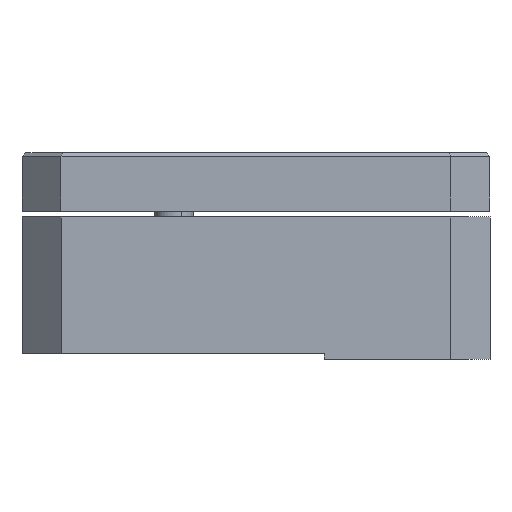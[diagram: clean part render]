
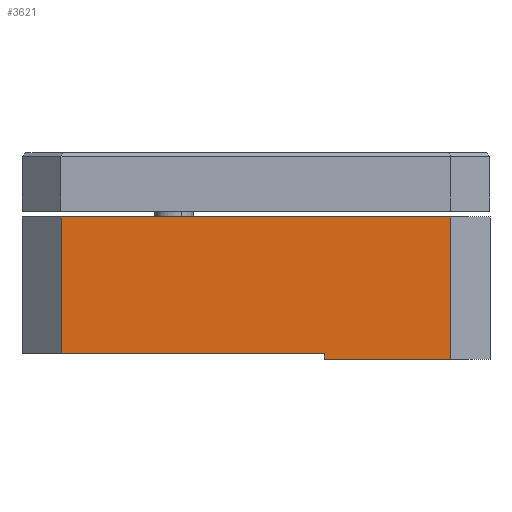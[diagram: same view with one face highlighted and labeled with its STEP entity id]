
A CAD part, left-side view. The second image highlights one B-rep face of the part: STEP entity #3621.
In plain terms, the highlighted planar face has unit normal (-1, 0, 0).
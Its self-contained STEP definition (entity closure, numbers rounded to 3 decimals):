
#263 = VERTEX_POINT ( 'NONE', #1630 ) ;
#318 = EDGE_CURVE ( 'NONE', #263, #2009, #1905, .T. ) ;
#543 = CARTESIAN_POINT ( 'NONE',  ( -17.951, -11.6, 20.2 ) ) ;
#552 = DIRECTION ( 'NONE',  ( 0., 1., 0. ) ) ;
#623 = CARTESIAN_POINT ( 'NONE',  ( -17.951, 12.4, 27.5 ) ) ;
#633 = ORIENTED_EDGE ( 'NONE', *, *, #3419, .T. ) ;
#640 = EDGE_CURVE ( 'NONE', #1359, #2999, #2734, .T. ) ;
#679 = VECTOR ( 'NONE', #2031, 1000. ) ;
#713 = CARTESIAN_POINT ( 'NONE',  ( -17.951, -3.1, 20.5 ) ) ;
#807 = LINE ( 'NONE', #543, #2436 ) ;
#810 = CARTESIAN_POINT ( 'NONE',  ( -17.951, 10.4, 27.5 ) ) ;
#880 = DIRECTION ( 'NONE',  ( 1., 0., 0. ) ) ;
#938 = VECTOR ( 'NONE', #3028, 1000. ) ;
#968 = CARTESIAN_POINT ( 'NONE',  ( -17.951, 10.4, 27.5 ) ) ;
#982 = VECTOR ( 'NONE', #3477, 1000. ) ;
#1069 = VECTOR ( 'NONE', #2731, 1000. ) ;
#1359 = VERTEX_POINT ( 'NONE', #810 ) ;
#1361 = CARTESIAN_POINT ( 'NONE',  ( -17.951, -3.1, 20.2 ) ) ;
#1476 = CARTESIAN_POINT ( 'NONE',  ( -17.951, 10.4, 20.5 ) ) ;
#1562 = EDGE_LOOP ( 'NONE', ( #2550, #633, #1735, #2594, #2007, #1789 ) ) ;
#1630 = CARTESIAN_POINT ( 'NONE',  ( -17.951, -3.1, 20.2 ) ) ;
#1644 = VERTEX_POINT ( 'NONE', #1476 ) ;
#1653 = DIRECTION ( 'NONE',  ( 0., 1., 0. ) ) ;
#1735 = ORIENTED_EDGE ( 'NONE', *, *, #2833, .T. ) ;
#1760 = LINE ( 'NONE', #2250, #938 ) ;
#1789 = ORIENTED_EDGE ( 'NONE', *, *, #2592, .T. ) ;
#1818 = AXIS2_PLACEMENT_3D ( 'NONE', #1953, #880, #552 ) ;
#1905 = LINE ( 'NONE', #1361, #1069 ) ;
#1953 = CARTESIAN_POINT ( 'NONE',  ( -17.951, 12.4, 27.5 ) ) ;
#2007 = ORIENTED_EDGE ( 'NONE', *, *, #2741, .F. ) ;
#2009 = VERTEX_POINT ( 'NONE', #713 ) ;
#2031 = DIRECTION ( 'NONE',  ( 0., -1., 0. ) ) ;
#2098 = CARTESIAN_POINT ( 'NONE',  ( -17.951, -9.6, 20.2 ) ) ;
#2250 = CARTESIAN_POINT ( 'NONE',  ( -17.951, 12.4, 20.5 ) ) ;
#2296 = FACE_OUTER_BOUND ( 'NONE', #1562, .T. ) ;
#2436 = VECTOR ( 'NONE', #1653, 1000. ) ;
#2550 = ORIENTED_EDGE ( 'NONE', *, *, #640, .F. ) ;
#2592 = EDGE_CURVE ( 'NONE', #3445, #2999, #3391, .T. ) ;
#2594 = ORIENTED_EDGE ( 'NONE', *, *, #318, .F. ) ;
#2681 = DIRECTION ( 'NONE',  ( 0., 0., -1. ) ) ;
#2731 = DIRECTION ( 'NONE',  ( 0., 0., 1. ) ) ;
#2734 = LINE ( 'NONE', #623, #679 ) ;
#2741 = EDGE_CURVE ( 'NONE', #3445, #263, #807, .T. ) ;
#2767 = VECTOR ( 'NONE', #2681, 1000. ) ;
#2833 = EDGE_CURVE ( 'NONE', #1644, #2009, #1760, .T. ) ;
#2999 = VERTEX_POINT ( 'NONE', #3336 ) ;
#3028 = DIRECTION ( 'NONE',  ( 0., -1., 0. ) ) ;
#3336 = CARTESIAN_POINT ( 'NONE',  ( -17.951, -9.6, 27.5 ) ) ;
#3375 = PLANE ( 'NONE',  #1818 ) ;
#3391 = LINE ( 'NONE', #3491, #982 ) ;
#3419 = EDGE_CURVE ( 'NONE', #1359, #1644, #3506, .T. ) ;
#3445 = VERTEX_POINT ( 'NONE', #2098 ) ;
#3477 = DIRECTION ( 'NONE',  ( 0., 0., 1. ) ) ;
#3491 = CARTESIAN_POINT ( 'NONE',  ( -17.951, -9.6, 27.5 ) ) ;
#3506 = LINE ( 'NONE', #968, #2767 ) ;
#3621 = ADVANCED_FACE ( 'NONE', ( #2296 ), #3375, .F. ) ;
